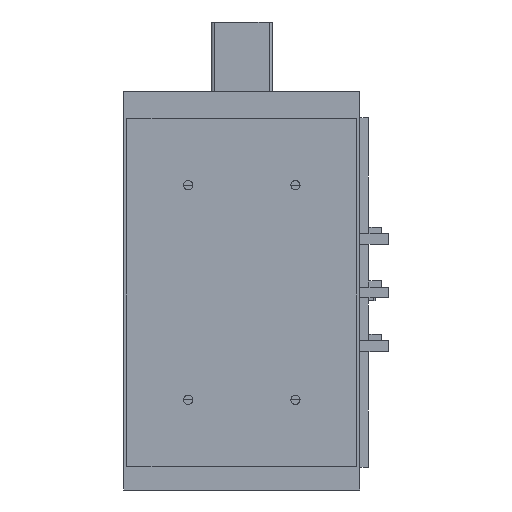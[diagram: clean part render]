
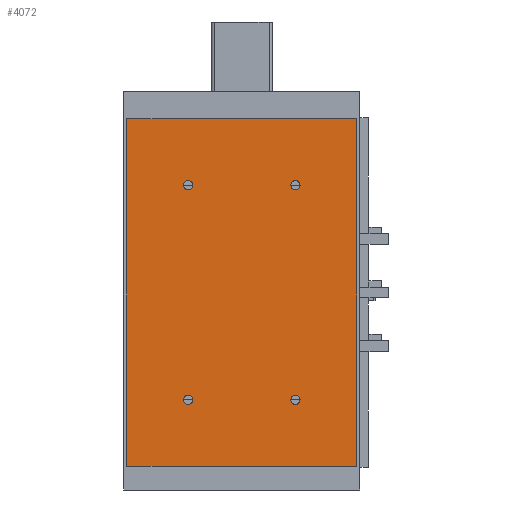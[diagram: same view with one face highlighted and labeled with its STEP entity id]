
A CAD part, front view. The second image highlights one B-rep face of the part: STEP entity #4072.
In plain terms, the highlighted planar face has unit normal (0, -1, 0).
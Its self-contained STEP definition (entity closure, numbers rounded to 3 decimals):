
#3162=CARTESIAN_POINT('',(-107.,0.0,324.0));
#3163=VERTEX_POINT('',#3162);
#3170=CARTESIAN_POINT('',(107.,0.0,324.0));
#3171=VERTEX_POINT('',#3170);
#3172=CARTESIAN_POINT('',(107.,0.0,324.0));
#3173=DIRECTION('',(-1.0,0.0,0.0));
#3174=VECTOR('',#3173,214.);
#3175=LINE('',#3172,#3174);
#3176=EDGE_CURVE('',#3171,#3163,#3175,.T.);
#3506=CARTESIAN_POINT('',(107.,0.0,0.0));
#3507=VERTEX_POINT('',#3506);
#3514=CARTESIAN_POINT('',(-107.,0.0,0.0));
#3515=VERTEX_POINT('',#3514);
#3516=CARTESIAN_POINT('',(-107.,0.0,0.0));
#3517=DIRECTION('',(1.0,0.0,0.0));
#3518=VECTOR('',#3517,214.);
#3519=LINE('',#3516,#3518);
#3520=EDGE_CURVE('',#3515,#3507,#3519,.T.);
#3626=CARTESIAN_POINT('',(45.751,0.0,62.));
#3627=VERTEX_POINT('',#3626);
#3628=CARTESIAN_POINT('',(50.001,0.0,62.));
#3629=DIRECTION('',(0.0,1.0,0.0));
#3630=DIRECTION('',(1.0,0.0,0.0));
#3631=AXIS2_PLACEMENT_3D('',#3628,#3629,#3630);
#3632=CIRCLE('',#3631,4.25);
#3633=EDGE_CURVE('',#3627,#3627,#3632,.T.);
#3667=CARTESIAN_POINT('',(-54.249,0.0,62.));
#3668=VERTEX_POINT('',#3667);
#3669=CARTESIAN_POINT('',(-49.999,0.0,62.));
#3670=DIRECTION('',(0.0,1.0,0.0));
#3671=DIRECTION('',(1.0,0.0,0.0));
#3672=AXIS2_PLACEMENT_3D('',#3669,#3670,#3671);
#3673=CIRCLE('',#3672,4.25);
#3674=EDGE_CURVE('',#3668,#3668,#3673,.T.);
#3846=CARTESIAN_POINT('',(45.751,0.0,262.));
#3847=VERTEX_POINT('',#3846);
#3848=CARTESIAN_POINT('',(50.001,0.0,262.));
#3849=DIRECTION('',(0.0,1.0,0.0));
#3850=DIRECTION('',(1.0,0.0,0.0));
#3851=AXIS2_PLACEMENT_3D('',#3848,#3849,#3850);
#3852=CIRCLE('',#3851,4.25);
#3853=EDGE_CURVE('',#3847,#3847,#3852,.T.);
#3956=CARTESIAN_POINT('',(-54.249,0.0,262.));
#3957=VERTEX_POINT('',#3956);
#3958=CARTESIAN_POINT('',(-49.999,0.0,262.));
#3959=DIRECTION('',(0.0,1.0,0.0));
#3960=DIRECTION('',(1.0,0.0,0.0));
#3961=AXIS2_PLACEMENT_3D('',#3958,#3959,#3960);
#3962=CIRCLE('',#3961,4.25);
#3963=EDGE_CURVE('',#3957,#3957,#3962,.T.);
#3983=CARTESIAN_POINT('',(107.,0.0,0.0));
#3984=DIRECTION('',(0.0,0.0,1.0));
#3985=VECTOR('',#3984,324.0);
#3986=LINE('',#3983,#3985);
#3987=EDGE_CURVE('',#3507,#3171,#3986,.T.);
#4005=CARTESIAN_POINT('',(-107.,0.0,0.0));
#4006=DIRECTION('',(0.0,0.0,1.0));
#4007=VECTOR('',#4006,324.0);
#4008=LINE('',#4005,#4007);
#4009=EDGE_CURVE('',#3515,#3163,#4008,.T.);
#4049=CARTESIAN_POINT('',(107.,0.0,0.0));
#4050=DIRECTION('',(0.0,-1.0,0.0));
#4051=DIRECTION('',(0.0,0.0,-1.0));
#4052=AXIS2_PLACEMENT_3D('',#4049,#4050,#4051);
#4053=PLANE('',#4052);
#4054=ORIENTED_EDGE('',*,*,#3176,.T.);
#4055=ORIENTED_EDGE('',*,*,#4009,.F.);
#4056=ORIENTED_EDGE('',*,*,#3520,.T.);
#4057=ORIENTED_EDGE('',*,*,#3987,.T.);
#4058=EDGE_LOOP('',(#4054,#4055,#4056,#4057));
#4059=FACE_OUTER_BOUND('',#4058,.T.);
#4060=ORIENTED_EDGE('',*,*,#3633,.T.);
#4061=EDGE_LOOP('',(#4060));
#4062=FACE_BOUND('',#4061,.T.);
#4063=ORIENTED_EDGE('',*,*,#3674,.T.);
#4064=EDGE_LOOP('',(#4063));
#4065=FACE_BOUND('',#4064,.T.);
#4066=ORIENTED_EDGE('',*,*,#3853,.T.);
#4067=EDGE_LOOP('',(#4066));
#4068=FACE_BOUND('',#4067,.T.);
#4069=ORIENTED_EDGE('',*,*,#3963,.T.);
#4070=EDGE_LOOP('',(#4069));
#4071=FACE_BOUND('',#4070,.T.);
#4072=ADVANCED_FACE('',(#4059,#4062,#4065,#4068,#4071),#4053,.T.);
